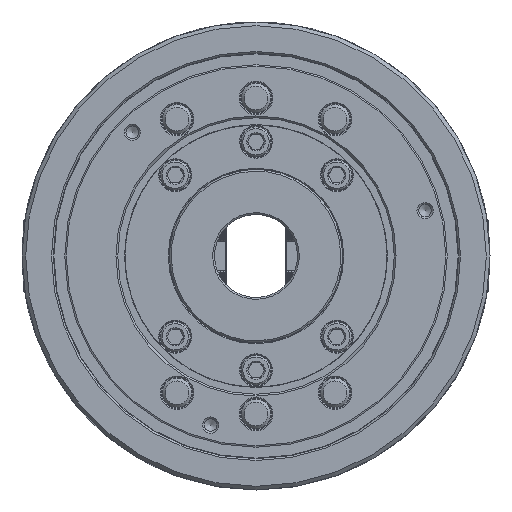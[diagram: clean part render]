
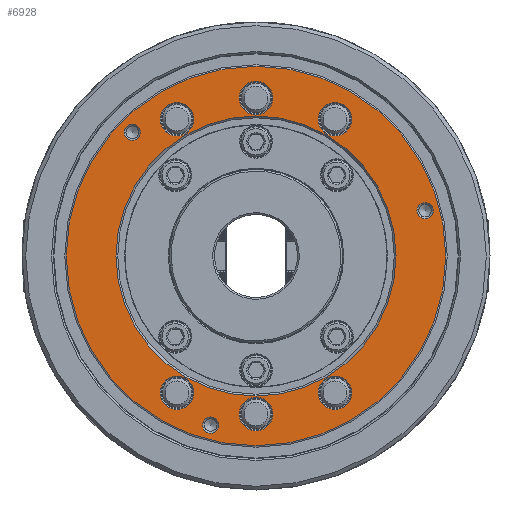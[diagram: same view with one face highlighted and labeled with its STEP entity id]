
A CAD part, left-side view. The second image highlights one B-rep face of the part: STEP entity #6928.
In plain terms, the highlighted planar face has unit normal (-1, 0, 0).
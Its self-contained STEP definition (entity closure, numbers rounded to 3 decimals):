
#129 = VERTEX_POINT ( 'NONE', #69703 ) ;
#719 = CARTESIAN_POINT ( 'NONE',  ( -95., 42.863, 74.24 ) ) ;
#737 = FACE_BOUND ( 'NONE', #54413, .T. ) ;
#1130 = DIRECTION ( 'NONE',  ( 0., 0., -1. ) ) ;
#2370 = AXIS2_PLACEMENT_3D ( 'NONE', #56848, #69421, #41558 ) ;
#2513 = ORIENTED_EDGE ( 'NONE', *, *, #66290, .F. ) ;
#2522 = DIRECTION ( 'NONE',  ( 1., 0., 0. ) ) ;
#4694 = CIRCLE ( 'NONE', #12092, 9.1 ) ;
#4798 = EDGE_LOOP ( 'NONE', ( #40556 ) ) ;
#4984 = EDGE_LOOP ( 'NONE', ( #26653 ) ) ;
#6564 = AXIS2_PLACEMENT_3D ( 'NONE', #45620, #2522, #1130 ) ;
#6928 = ADVANCED_FACE ( 'NONE', ( #9032, #737, #79555, #49448, #29028, #35515, #78613, #36872, #44278, #8582, #85566 ), #77722, .F. ) ;
#7216 = DIRECTION ( 'NONE',  ( 1., 0., 0. ) ) ;
#7491 = EDGE_LOOP ( 'NONE', ( #70666 ) ) ;
#8582 = FACE_OUTER_BOUND ( 'NONE', #39925, .T. ) ;
#8899 = EDGE_LOOP ( 'NONE', ( #87364 ) ) ;
#9032 = FACE_BOUND ( 'NONE', #82522, .T. ) ;
#9398 = AXIS2_PLACEMENT_3D ( 'NONE', #54805, #48338, #13076 ) ;
#9796 = AXIS2_PLACEMENT_3D ( 'NONE', #38639, #83095, #53487 ) ;
#10954 = VERTEX_POINT ( 'NONE', #18374 ) ;
#12092 = AXIS2_PLACEMENT_3D ( 'NONE', #50153, #41782, #78419 ) ;
#12182 = CIRCLE ( 'NONE', #18086, 4.4 ) ;
#13076 = DIRECTION ( 'NONE',  ( 0., 0., 1. ) ) ;
#13684 = EDGE_CURVE ( 'NONE', #87470, #87470, #4694, .T. ) ;
#14494 = CARTESIAN_POINT ( 'NONE',  ( -95., 42.862, -83.34 ) ) ;
#14602 = VERTEX_POINT ( 'NONE', #55881 ) ;
#15826 = DIRECTION ( 'NONE',  ( 1., 0., 0. ) ) ;
#18086 = AXIS2_PLACEMENT_3D ( 'NONE', #63168, #91463, #27016 ) ;
#18285 = CIRCLE ( 'NONE', #9398, 4.4 ) ;
#18374 = CARTESIAN_POINT ( 'NONE',  ( -95., 0., -103. ) ) ;
#18724 = VERTEX_POINT ( 'NONE', #75310 ) ;
#18778 = AXIS2_PLACEMENT_3D ( 'NONE', #43364, #7216, #86473 ) ;
#19158 = CARTESIAN_POINT ( 'NONE',  ( -95., -91.763, 28.988 ) ) ;
#21432 = CARTESIAN_POINT ( 'NONE',  ( -95., -42.862, 65.14 ) ) ;
#21893 = VERTEX_POINT ( 'NONE', #14494 ) ;
#24206 = CARTESIAN_POINT ( 'NONE',  ( -95., 0., 76.625 ) ) ;
#24334 = CIRCLE ( 'NONE', #80596, 4.4 ) ;
#24626 = ORIENTED_EDGE ( 'NONE', *, *, #68349, .T. ) ;
#24659 = DIRECTION ( 'NONE',  ( 0., 0., -1. ) ) ;
#25638 = EDGE_LOOP ( 'NONE', ( #88718 ) ) ;
#26083 = CIRCLE ( 'NONE', #9796, 9.1 ) ;
#26653 = ORIENTED_EDGE ( 'NONE', *, *, #91066, .T. ) ;
#26815 = EDGE_LOOP ( 'NONE', ( #49669 ) ) ;
#27016 = DIRECTION ( 'NONE',  ( 0., 0., 1. ) ) ;
#28233 = EDGE_CURVE ( 'NONE', #10954, #10954, #59443, .T. ) ;
#28543 = DIRECTION ( 'NONE',  ( 1., 0., 0. ) ) ;
#29007 = DIRECTION ( 'NONE',  ( 0., 0., -1. ) ) ;
#29028 = FACE_BOUND ( 'NONE', #26815, .T. ) ;
#30543 = EDGE_CURVE ( 'NONE', #54531, #54531, #37906, .T. ) ;
#31851 = EDGE_LOOP ( 'NONE', ( #24626 ) ) ;
#33206 = CARTESIAN_POINT ( 'NONE',  ( -95., -42.863, -83.34 ) ) ;
#35515 = FACE_BOUND ( 'NONE', #4798, .T. ) ;
#36872 = FACE_BOUND ( 'NONE', #7491, .T. ) ;
#37530 = CIRCLE ( 'NONE', #49402, 9.1 ) ;
#37874 = CARTESIAN_POINT ( 'NONE',  ( -95., 0., -94.825 ) ) ;
#37906 = CIRCLE ( 'NONE', #2370, 9.1 ) ;
#38135 = ORIENTED_EDGE ( 'NONE', *, *, #30543, .T. ) ;
#38589 = EDGE_CURVE ( 'NONE', #14602, #14602, #80455, .T. ) ;
#38639 = CARTESIAN_POINT ( 'NONE',  ( -95., -42.862, 74.24 ) ) ;
#39925 = EDGE_LOOP ( 'NONE', ( #81101 ) ) ;
#40556 = ORIENTED_EDGE ( 'NONE', *, *, #78746, .F. ) ;
#41397 = VERTEX_POINT ( 'NONE', #21432 ) ;
#41558 = DIRECTION ( 'NONE',  ( 0., 0., -1. ) ) ;
#41782 = DIRECTION ( 'NONE',  ( 1., 0., 0. ) ) ;
#43364 = CARTESIAN_POINT ( 'NONE',  ( -95., -103., 0. ) ) ;
#44100 = DIRECTION ( 'NONE',  ( 0., 0., 1. ) ) ;
#44278 = FACE_BOUND ( 'NONE', #44486, .T. ) ;
#44486 = EDGE_LOOP ( 'NONE', ( #38135 ) ) ;
#45620 = CARTESIAN_POINT ( 'NONE',  ( -95., 0., 85.725 ) ) ;
#46562 = VERTEX_POINT ( 'NONE', #19158 ) ;
#46582 = CIRCLE ( 'NONE', #6564, 9.1 ) ;
#48338 = DIRECTION ( 'NONE',  ( -1., 0., 0. ) ) ;
#48381 = CARTESIAN_POINT ( 'NONE',  ( -95., 24.588, -87.363 ) ) ;
#49251 = CARTESIAN_POINT ( 'NONE',  ( -95., 42.862, -74.24 ) ) ;
#49402 = AXIS2_PLACEMENT_3D ( 'NONE', #49251, #15826, #72408 ) ;
#49448 = FACE_BOUND ( 'NONE', #4984, .T. ) ;
#49669 = ORIENTED_EDGE ( 'NONE', *, *, #38589, .T. ) ;
#50153 = CARTESIAN_POINT ( 'NONE',  ( -95., 0., -85.725 ) ) ;
#50179 = DIRECTION ( 'NONE',  ( -1., 0., 0. ) ) ;
#50721 = CARTESIAN_POINT ( 'NONE',  ( -95., 0., 0. ) ) ;
#52482 = DIRECTION ( 'NONE',  ( 1., 0., 0. ) ) ;
#53487 = DIRECTION ( 'NONE',  ( 0., 0., -1. ) ) ;
#53772 = AXIS2_PLACEMENT_3D ( 'NONE', #719, #28543, #29007 ) ;
#54413 = EDGE_LOOP ( 'NONE', ( #2513 ) ) ;
#54531 = VERTEX_POINT ( 'NONE', #33206 ) ;
#54805 = CARTESIAN_POINT ( 'NONE',  ( -95., 24.588, -91.763 ) ) ;
#55881 = CARTESIAN_POINT ( 'NONE',  ( -95., 42.863, 65.14 ) ) ;
#56848 = CARTESIAN_POINT ( 'NONE',  ( -95., -42.863, -74.24 ) ) ;
#57189 = DIRECTION ( 'NONE',  ( 0., 0., -1. ) ) ;
#59403 = CIRCLE ( 'NONE', #75698, 76. ) ;
#59443 = CIRCLE ( 'NONE', #87563, 103. ) ;
#60783 = CARTESIAN_POINT ( 'NONE',  ( -95., 0., 0. ) ) ;
#63168 = CARTESIAN_POINT ( 'NONE',  ( -95., 67.175, 67.175 ) ) ;
#64513 = CARTESIAN_POINT ( 'NONE',  ( -95., -91.763, 24.588 ) ) ;
#66290 = EDGE_CURVE ( 'NONE', #46562, #46562, #24334, .T. ) ;
#68349 = EDGE_CURVE ( 'NONE', #18724, #18724, #59403, .T. ) ;
#69421 = DIRECTION ( 'NONE',  ( 1., 0., 0. ) ) ;
#69703 = CARTESIAN_POINT ( 'NONE',  ( -95., 67.175, 71.575 ) ) ;
#70666 = ORIENTED_EDGE ( 'NONE', *, *, #13684, .T. ) ;
#72408 = DIRECTION ( 'NONE',  ( 0., 0., -1. ) ) ;
#72495 = DIRECTION ( 'NONE',  ( 1., 0., 0. ) ) ;
#73372 = VERTEX_POINT ( 'NONE', #24206 ) ;
#75310 = CARTESIAN_POINT ( 'NONE',  ( -95., 0., -76. ) ) ;
#75698 = AXIS2_PLACEMENT_3D ( 'NONE', #60783, #52482, #24659 ) ;
#76555 = EDGE_CURVE ( 'NONE', #129, #129, #12182, .T. ) ;
#77722 = PLANE ( 'NONE',  #18778 ) ;
#78419 = DIRECTION ( 'NONE',  ( 0., 0., -1. ) ) ;
#78613 = FACE_BOUND ( 'NONE', #25638, .T. ) ;
#78746 = EDGE_CURVE ( 'NONE', #84957, #84957, #18285, .T. ) ;
#78898 = EDGE_CURVE ( 'NONE', #21893, #21893, #37530, .T. ) ;
#79555 = FACE_BOUND ( 'NONE', #8899, .T. ) ;
#80455 = CIRCLE ( 'NONE', #53772, 9.1 ) ;
#80596 = AXIS2_PLACEMENT_3D ( 'NONE', #64513, #50179, #44100 ) ;
#81101 = ORIENTED_EDGE ( 'NONE', *, *, #28233, .F. ) ;
#82271 = EDGE_CURVE ( 'NONE', #41397, #41397, #26083, .T. ) ;
#82522 = EDGE_LOOP ( 'NONE', ( #86302 ) ) ;
#83095 = DIRECTION ( 'NONE',  ( 1., 0., 0. ) ) ;
#84957 = VERTEX_POINT ( 'NONE', #48381 ) ;
#85566 = FACE_BOUND ( 'NONE', #31851, .T. ) ;
#86302 = ORIENTED_EDGE ( 'NONE', *, *, #76555, .F. ) ;
#86473 = DIRECTION ( 'NONE',  ( 0., 0., -1. ) ) ;
#87364 = ORIENTED_EDGE ( 'NONE', *, *, #82271, .T. ) ;
#87470 = VERTEX_POINT ( 'NONE', #37874 ) ;
#87563 = AXIS2_PLACEMENT_3D ( 'NONE', #50721, #72495, #57189 ) ;
#88718 = ORIENTED_EDGE ( 'NONE', *, *, #78898, .T. ) ;
#91066 = EDGE_CURVE ( 'NONE', #73372, #73372, #46582, .T. ) ;
#91463 = DIRECTION ( 'NONE',  ( -1., 0., 0. ) ) ;
